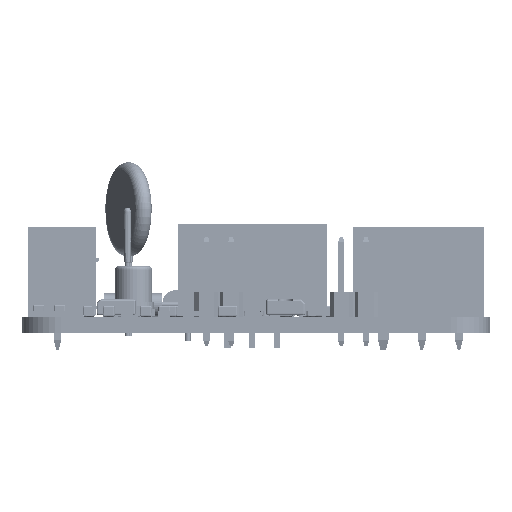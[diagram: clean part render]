
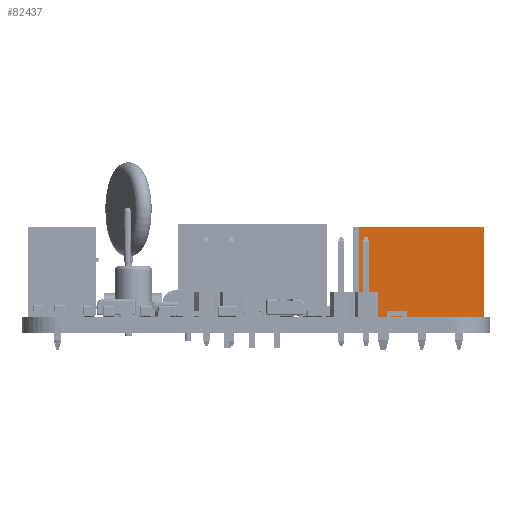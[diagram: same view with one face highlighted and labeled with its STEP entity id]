
A CAD part, left-side view. The second image highlights one B-rep face of the part: STEP entity #82437.
In plain terms, the highlighted planar face has unit normal (-1, 0, 0) as drawn and (0, -1, 0) by its records, which use the part's own axes.
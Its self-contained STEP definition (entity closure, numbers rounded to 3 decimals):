
#72783 = PLANE('',#72784);
#72784 = AXIS2_PLACEMENT_3D('',#72785,#72786,#72787);
#72785 = CARTESIAN_POINT('',(0.,5.25,-3.81));
#72786 = DIRECTION('',(-1.,0.,0.));
#72787 = DIRECTION('',(0.,1.,0.));
#73519 = PLANE('',#73520);
#73520 = AXIS2_PLACEMENT_3D('',#73521,#73522,#73523);
#73521 = CARTESIAN_POINT('',(0.,0.,2.6));
#73522 = DIRECTION('',(0.,0.,1.));
#73523 = DIRECTION('',(1.,0.,0.));
#73572 = PLANE('',#73573);
#73573 = AXIS2_PLACEMENT_3D('',#73574,#73575,#73576);
#73574 = CARTESIAN_POINT('',(0.,0.,-10.22));
#73575 = DIRECTION('',(0.,0.,1.));
#73576 = DIRECTION('',(1.,0.,0.));
#73610 = PLANE('',#73611);
#73611 = AXIS2_PLACEMENT_3D('',#73612,#73613,#73614);
#73612 = CARTESIAN_POINT('',(9.2,7.,-5.515));
#73613 = DIRECTION('',(1.,0.,0.));
#73614 = DIRECTION('',(0.,0.,1.));
#82437 = ADVANCED_FACE('',(#82438),#82452,.T.);
#82438 = FACE_BOUND('',#82439,.T.);
#82439 = EDGE_LOOP('',(#82440,#82470,#82493,#82516));
#82440 = ORIENTED_EDGE('',*,*,#82441,.T.);
#82441 = EDGE_CURVE('',#82442,#82444,#82446,.T.);
#82442 = VERTEX_POINT('',#82443);
#82443 = CARTESIAN_POINT('',(0.,0.,2.6));
#82444 = VERTEX_POINT('',#82445);
#82445 = CARTESIAN_POINT('',(0.,0.,-10.22));
#82446 = SURFACE_CURVE('',#82447,(#82451,#82463),.PCURVE_S1.);
#82447 = LINE('',#82448,#82449);
#82448 = CARTESIAN_POINT('',(0.,0.,0.));
#82449 = VECTOR('',#82450,1.);
#82450 = DIRECTION('',(0.,0.,-1.));
#82451 = PCURVE('',#82452,#82457);
#82452 = PLANE('',#82453);
#82453 = AXIS2_PLACEMENT_3D('',#82454,#82455,#82456);
#82454 = CARTESIAN_POINT('',(3.1,0.,-3.81));
#82455 = DIRECTION('',(0.,-1.,0.));
#82456 = DIRECTION('',(-1.,0.,0.));
#82457 = DEFINITIONAL_REPRESENTATION('',(#82458),#82462);
#82458 = LINE('',#82459,#82460);
#82459 = CARTESIAN_POINT('',(3.1,-3.81));
#82460 = VECTOR('',#82461,1.);
#82461 = DIRECTION('',(0.,1.));
#82462 = ( GEOMETRIC_REPRESENTATION_CONTEXT(2) 
PARAMETRIC_REPRESENTATION_CONTEXT() REPRESENTATION_CONTEXT('2D SPACE',''
  ) );
#82463 = PCURVE('',#72783,#82464);
#82464 = DEFINITIONAL_REPRESENTATION('',(#82465),#82469);
#82465 = LINE('',#82466,#82467);
#82466 = CARTESIAN_POINT('',(-5.25,-3.81));
#82467 = VECTOR('',#82468,1.);
#82468 = DIRECTION('',(0.,1.));
#82469 = ( GEOMETRIC_REPRESENTATION_CONTEXT(2) 
PARAMETRIC_REPRESENTATION_CONTEXT() REPRESENTATION_CONTEXT('2D SPACE',''
  ) );
#82470 = ORIENTED_EDGE('',*,*,#82471,.T.);
#82471 = EDGE_CURVE('',#82444,#82472,#82474,.T.);
#82472 = VERTEX_POINT('',#82473);
#82473 = CARTESIAN_POINT('',(9.2,0.,-10.22));
#82474 = SURFACE_CURVE('',#82475,(#82479,#82486),.PCURVE_S1.);
#82475 = LINE('',#82476,#82477);
#82476 = CARTESIAN_POINT('',(0.,0.,-10.22));
#82477 = VECTOR('',#82478,1.);
#82478 = DIRECTION('',(1.,0.,0.));
#82479 = PCURVE('',#82452,#82480);
#82480 = DEFINITIONAL_REPRESENTATION('',(#82481),#82485);
#82481 = LINE('',#82482,#82483);
#82482 = CARTESIAN_POINT('',(3.1,6.41));
#82483 = VECTOR('',#82484,1.);
#82484 = DIRECTION('',(-1.,0.));
#82485 = ( GEOMETRIC_REPRESENTATION_CONTEXT(2) 
PARAMETRIC_REPRESENTATION_CONTEXT() REPRESENTATION_CONTEXT('2D SPACE',''
  ) );
#82486 = PCURVE('',#73572,#82487);
#82487 = DEFINITIONAL_REPRESENTATION('',(#82488),#82492);
#82488 = LINE('',#82489,#82490);
#82489 = CARTESIAN_POINT('',(0.,0.));
#82490 = VECTOR('',#82491,1.);
#82491 = DIRECTION('',(1.,0.));
#82492 = ( GEOMETRIC_REPRESENTATION_CONTEXT(2) 
PARAMETRIC_REPRESENTATION_CONTEXT() REPRESENTATION_CONTEXT('2D SPACE',''
  ) );
#82493 = ORIENTED_EDGE('',*,*,#82494,.T.);
#82494 = EDGE_CURVE('',#82472,#82495,#82497,.T.);
#82495 = VERTEX_POINT('',#82496);
#82496 = CARTESIAN_POINT('',(9.2,0.,2.6));
#82497 = SURFACE_CURVE('',#82498,(#82502,#82509),.PCURVE_S1.);
#82498 = LINE('',#82499,#82500);
#82499 = CARTESIAN_POINT('',(9.2,0.,-3.81));
#82500 = VECTOR('',#82501,1.);
#82501 = DIRECTION('',(0.,0.,1.));
#82502 = PCURVE('',#82452,#82503);
#82503 = DEFINITIONAL_REPRESENTATION('',(#82504),#82508);
#82504 = LINE('',#82505,#82506);
#82505 = CARTESIAN_POINT('',(-6.1,0.));
#82506 = VECTOR('',#82507,1.);
#82507 = DIRECTION('',(0.,-1.));
#82508 = ( GEOMETRIC_REPRESENTATION_CONTEXT(2) 
PARAMETRIC_REPRESENTATION_CONTEXT() REPRESENTATION_CONTEXT('2D SPACE',''
  ) );
#82509 = PCURVE('',#73610,#82510);
#82510 = DEFINITIONAL_REPRESENTATION('',(#82511),#82515);
#82511 = LINE('',#82512,#82513);
#82512 = CARTESIAN_POINT('',(1.705,7.));
#82513 = VECTOR('',#82514,1.);
#82514 = DIRECTION('',(1.,0.));
#82515 = ( GEOMETRIC_REPRESENTATION_CONTEXT(2) 
PARAMETRIC_REPRESENTATION_CONTEXT() REPRESENTATION_CONTEXT('2D SPACE',''
  ) );
#82516 = ORIENTED_EDGE('',*,*,#82517,.F.);
#82517 = EDGE_CURVE('',#82442,#82495,#82518,.T.);
#82518 = SURFACE_CURVE('',#82519,(#82523,#82530),.PCURVE_S1.);
#82519 = LINE('',#82520,#82521);
#82520 = CARTESIAN_POINT('',(0.,0.,2.6));
#82521 = VECTOR('',#82522,1.);
#82522 = DIRECTION('',(1.,0.,0.));
#82523 = PCURVE('',#82452,#82524);
#82524 = DEFINITIONAL_REPRESENTATION('',(#82525),#82529);
#82525 = LINE('',#82526,#82527);
#82526 = CARTESIAN_POINT('',(3.1,-6.41));
#82527 = VECTOR('',#82528,1.);
#82528 = DIRECTION('',(-1.,0.));
#82529 = ( GEOMETRIC_REPRESENTATION_CONTEXT(2) 
PARAMETRIC_REPRESENTATION_CONTEXT() REPRESENTATION_CONTEXT('2D SPACE',''
  ) );
#82530 = PCURVE('',#73519,#82531);
#82531 = DEFINITIONAL_REPRESENTATION('',(#82532),#82536);
#82532 = LINE('',#82533,#82534);
#82533 = CARTESIAN_POINT('',(0.,0.));
#82534 = VECTOR('',#82535,1.);
#82535 = DIRECTION('',(1.,0.));
#82536 = ( GEOMETRIC_REPRESENTATION_CONTEXT(2) 
PARAMETRIC_REPRESENTATION_CONTEXT() REPRESENTATION_CONTEXT('2D SPACE',''
  ) );
